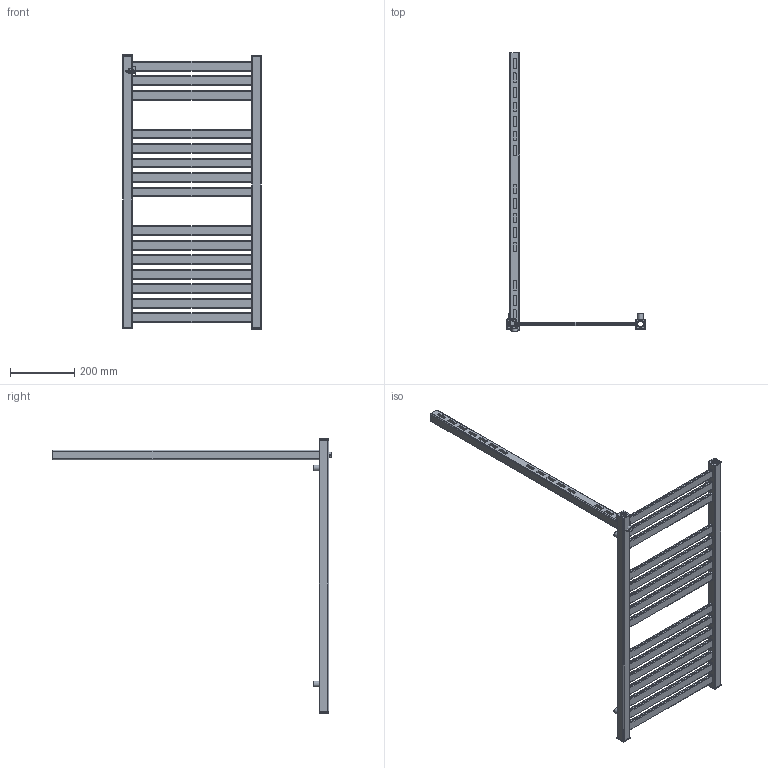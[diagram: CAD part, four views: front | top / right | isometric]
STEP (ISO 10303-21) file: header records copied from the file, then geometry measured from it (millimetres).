
FILE_DESCRIPTION( ( 'Unknown' ), '1' );
FILE_NAME( 'D:/Alplast sp. j/Witryna zespoBu - Projekty/Archiwum/Grzejniki Archiwum/Projekty/STANDARD/AK-EP/AK3-400EP.stp', 'Unknown', ( 'Unknown' ), ( 'Unknown' ), 'PSStep 10.1', 'Unknown', ' ' );
FILE_SCHEMA( ( 'AUTOMOTIVE_DESIGN { 1 0 10303 214 1 1 1 1 }' ) );
Length unit declared in the file: millimetre
Products named in the file (5): Assem1; zaslepka kwadrat otwor; AK3-EPEL; kana³  poziomy 30x10  400; mocowanie
Bounding box: 430 x 864 x 850.13 mm (x, y, z)
Volume: 1055773.8 mm3; surface area: 1423165.4 mm2
Topology: 29 solids, 29 shells, 794 faces, 2178 edges, 1452 vertices
Faces by surface type: plane 440, cylinder 344, torus 10
Full cylindrical faces by diameter (mm): 16 x5, 18 x5, 18.631 x5, 23 x5
Entity records: 7607 total; most frequent: DIRECTION 1091, CARTESIAN_POINT 1052, ORIENTED_EDGE 1010, EDGE_CURVE 505, AXIS2_PLACEMENT_3D 379, VERTEX_POINT 340, LINE 333, VECTOR 333
